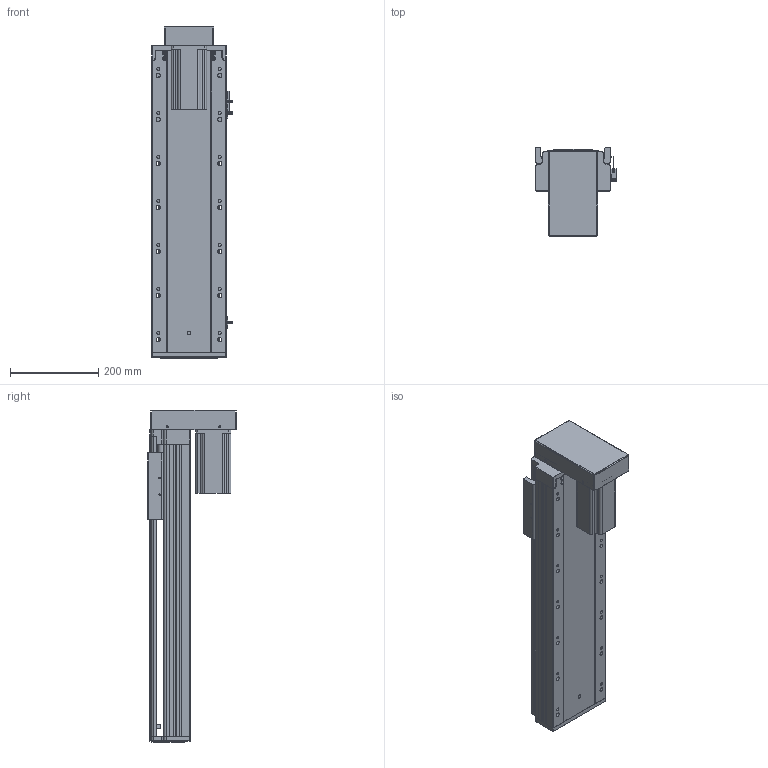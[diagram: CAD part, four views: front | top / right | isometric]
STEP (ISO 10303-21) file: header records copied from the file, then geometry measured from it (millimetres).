
FILE_DESCRIPTION (( 'STEP AP203' ), '1' );
FILE_NAME ('RY170-L2510-300-BK.SLDASM_450.step', '2021-03-12T08:57:49', ( '盈信电脑' ), ( '东莞市道滘镇水果街19号' ), 'SwSTEP 2.0', 'SolidWorks 2012', '' );
FILE_SCHEMA (( 'CONFIG_CONTROL_DESIGN' ));
Length unit declared in the file: millimetre
Products named in the file (14): RY170-狟殏750W萇儂傷; 怢湛750W萇儂ㄗ80遺ㄘ; RY170-L2510-300-BK.SLDASM_450; RY170转折电机端支撑座(7004); RY170-狟殏萇儂假蚾啣; RY170狟殏萇儂欶; 滅袉蝶18-10; RY170外置感应片(200共用）; 覜茼ん672; RY170綴裔啣; 滅袉蝶18-20; 改造-RY170铝滑块25丝杆螺母; RY170-300倰第裔啣-BK_450; RY170-300倰第菁釱-BK_450
Assembly tree (15 placements, depth 3):
  RY170-L2510-300-BK.SLDASM_450
    RY170-300倰第菁釱-BK_450
    改造-RY170铝滑块25丝杆螺母
    RY170-300倰第裔啣-BK_450
    RY170綴裔啣
    覜茼ん672  x3
    RY170外置感应片(200共用）
    滅袉蝶18-20
    滅袉蝶18-10
    RY170转折电机端支撑座(7004)
    RY170-狟殏750W萇儂傷
      RY170-狟殏萇儂假蚾啣
      RY170狟殏萇儂欶
      怢湛750W萇儂ㄗ80遺ㄘ
Bounding box: 183.7 x 200.8 x 754.5 mm (x, y, z)
Volume: 4891544.7 mm3; surface area: 1425845 mm2
Topology: 14 solids, 14 shells, 2092 faces, 6009 edges, 3876 vertices
Faces by surface type: plane 1080, cylinder 843, cone 150, bspline 19
Entity records: 67738 total; most frequent: CARTESIAN_POINT 16271, ORIENTED_EDGE 10810, DIRECTION 9937, EDGE_CURVE 5405, VERTEX_POINT 3556, VECTOR 3377, LINE 3377, AXIS2_PLACEMENT_3D 3280
